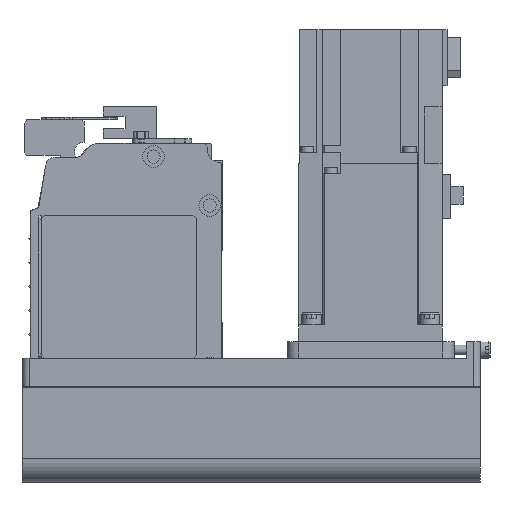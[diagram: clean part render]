
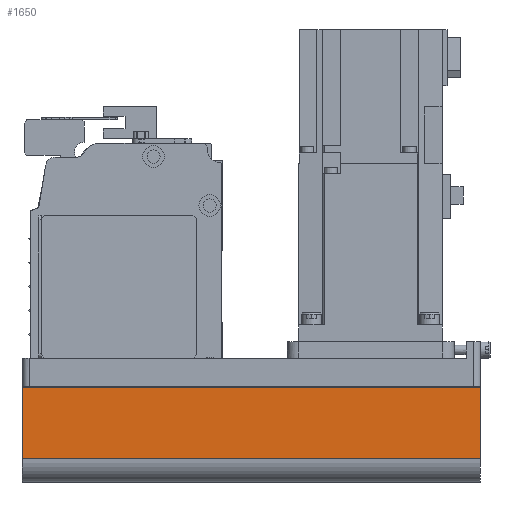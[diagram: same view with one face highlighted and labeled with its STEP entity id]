
A CAD part, left-side view. The second image highlights one B-rep face of the part: STEP entity #1650.
In plain terms, the highlighted planar face has unit normal (-1, 0, 0) as drawn and (0, 1, 0) by its records, which use the part's own axes.
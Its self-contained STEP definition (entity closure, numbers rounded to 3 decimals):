
#1650 = ADVANCED_FACE( '', ( #3666 ), #3667, .T. );
#3666 = FACE_OUTER_BOUND( '', #6106, .T. );
#3667 = PLANE( '', #6107 );
#6106 = EDGE_LOOP( '', ( #10458, #10459, #10460, #10461 ) );
#6107 = AXIS2_PLACEMENT_3D( '', #10462, #10463, #10464 );
#10458 = ORIENTED_EDGE( '', *, *, #13902, .F. );
#10459 = ORIENTED_EDGE( '', *, *, #15430, .F. );
#10460 = ORIENTED_EDGE( '', *, *, #15431, .T. );
#10461 = ORIENTED_EDGE( '', *, *, #15432, .T. );
#10462 = CARTESIAN_POINT( '', ( -192., 40., -42. ) );
#10463 = DIRECTION( '', ( 0., 1., 0. ) );
#10464 = DIRECTION( '', ( 0., 0., 1. ) );
#13902 = EDGE_CURVE( '', #16511, #16512, #16513, .T. );
#15430 = EDGE_CURVE( '', #18965, #16511, #18966, .T. );
#15431 = EDGE_CURVE( '', #18965, #18487, #18967, .T. );
#15432 = EDGE_CURVE( '', #18487, #16512, #18968, .T. );
#16511 = VERTEX_POINT( '', #20285 );
#16512 = VERTEX_POINT( '', #20286 );
#16513 = LINE( '', #20287, #20288 );
#18487 = VERTEX_POINT( '', #22934 );
#18965 = VERTEX_POINT( '', #23567 );
#18966 = LINE( '', #23568, #23569 );
#18967 = LINE( '', #23570, #23571 );
#18968 = LINE( '', #23572, #23573 );
#20285 = CARTESIAN_POINT( '', ( 0., 40., -42. ) );
#20286 = CARTESIAN_POINT( '', ( 0., 40., -12.1 ) );
#20287 = CARTESIAN_POINT( '', ( 0., 40., -42. ) );
#20288 = VECTOR( '', #25093, 1000. );
#22934 = CARTESIAN_POINT( '', ( -192., 40., -12.1 ) );
#23567 = CARTESIAN_POINT( '', ( -192., 40., -42. ) );
#23568 = CARTESIAN_POINT( '', ( -192., 40., -42. ) );
#23569 = VECTOR( '', #26959, 1000. );
#23570 = CARTESIAN_POINT( '', ( -192., 40., -42. ) );
#23571 = VECTOR( '', #26960, 1000. );
#23572 = CARTESIAN_POINT( '', ( -192., 40., -12.1 ) );
#23573 = VECTOR( '', #26961, 1000. );
#25093 = DIRECTION( '', ( 0., 0., 1. ) );
#26959 = DIRECTION( '', ( 1., 0., 0. ) );
#26960 = DIRECTION( '', ( 0., 0., 1. ) );
#26961 = DIRECTION( '', ( 1., 0., 0. ) );
